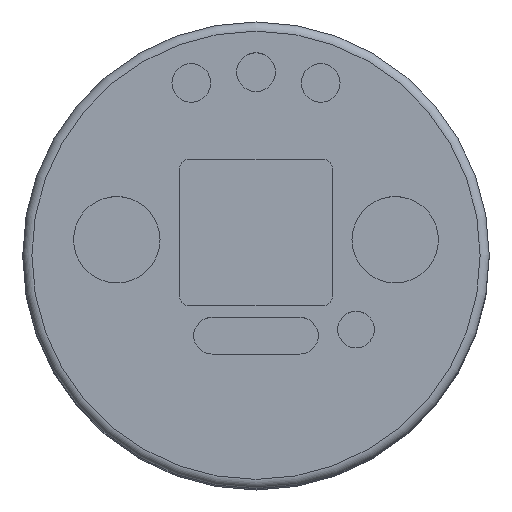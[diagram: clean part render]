
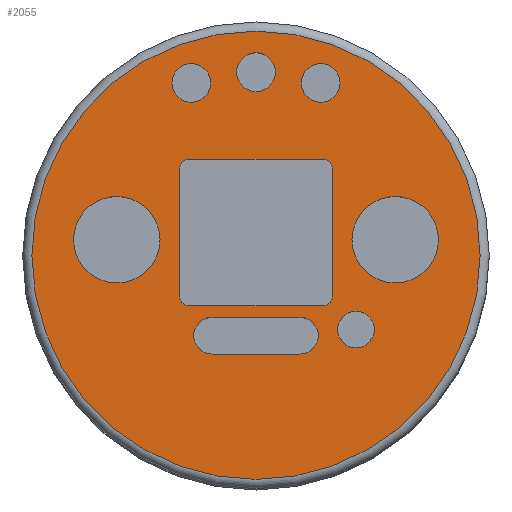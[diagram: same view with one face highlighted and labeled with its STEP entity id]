
A CAD part, top view. The second image highlights one B-rep face of the part: STEP entity #2055.
In plain terms, the highlighted planar face has unit normal (0, 0, 1).
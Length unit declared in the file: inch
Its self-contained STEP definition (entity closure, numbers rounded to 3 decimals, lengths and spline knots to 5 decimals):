
#91=FACE_BOUND('',#353,.T.);
#92=FACE_BOUND('',#354,.T.);
#93=FACE_BOUND('',#355,.T.);
#94=FACE_BOUND('',#356,.T.);
#95=FACE_BOUND('',#357,.T.);
#96=FACE_BOUND('',#358,.T.);
#97=FACE_BOUND('',#359,.T.);
#98=FACE_BOUND('',#360,.T.);
#205=FACE_OUTER_BOUND('',#352,.T.);
#352=EDGE_LOOP('',(#1781));
#353=EDGE_LOOP('',(#1782));
#354=EDGE_LOOP('',(#1783));
#355=EDGE_LOOP('',(#1784));
#356=EDGE_LOOP('',(#1785,#1786,#1787,#1788));
#357=EDGE_LOOP('',(#1789));
#358=EDGE_LOOP('',(#1790));
#359=EDGE_LOOP('',(#1791,#1792,#1793,#1794,#1795,#1796,#1797,#1798));
#360=EDGE_LOOP('',(#1799));
#441=CIRCLE('',#2242,0.1475);
#443=CIRCLE('',#2246,0.1475);
#446=CIRCLE('',#2251,0.03125);
#450=CIRCLE('',#2258,0.03125);
#451=CIRCLE('',#2260,0.03125);
#452=CIRCLE('',#2263,0.03125);
#458=CIRCLE('',#2273,0.76475);
#460=CIRCLE('',#2276,0.06603);
#461=CIRCLE('',#2277,0.0625);
#462=CIRCLE('',#2278,0.0625);
#463=CIRCLE('',#2279,0.0625);
#464=CIRCLE('',#2280,0.06603);
#465=CIRCLE('',#2281,0.06625);
#638=LINE('',#3433,#820);
#643=LINE('',#3447,#825);
#647=LINE('',#3477,#829);
#648=LINE('',#3480,#830);
#649=LINE('',#3485,#831);
#650=LINE('',#3486,#832);
#820=VECTOR('',#2808,0.3937);
#825=VECTOR('',#2823,0.3937);
#829=VECTOR('',#2859,0.3937);
#830=VECTOR('',#2862,0.3937);
#831=VECTOR('',#2867,0.3937);
#832=VECTOR('',#2868,0.3937);
#983=VERTEX_POINT('',#3395);
#985=VERTEX_POINT('',#3402);
#989=VERTEX_POINT('',#3412);
#990=VERTEX_POINT('',#3414);
#997=VERTEX_POINT('',#3432);
#998=VERTEX_POINT('',#3436);
#999=VERTEX_POINT('',#3440);
#1000=VERTEX_POINT('',#3442);
#1001=VERTEX_POINT('',#3446);
#1002=VERTEX_POINT('',#3450);
#1007=VERTEX_POINT('',#3467);
#1008=VERTEX_POINT('',#3471);
#1009=VERTEX_POINT('',#3473);
#1010=VERTEX_POINT('',#3474);
#1011=VERTEX_POINT('',#3476);
#1012=VERTEX_POINT('',#3478);
#1013=VERTEX_POINT('',#3481);
#1014=VERTEX_POINT('',#3483);
#1015=VERTEX_POINT('',#3487);
#1238=EDGE_CURVE('',#983,#983,#441,.T.);
#1241=EDGE_CURVE('',#985,#985,#443,.T.);
#1246=EDGE_CURVE('',#989,#990,#446,.T.);
#1255=EDGE_CURVE('',#997,#990,#638,.T.);
#1257=EDGE_CURVE('',#997,#998,#450,.T.);
#1260=EDGE_CURVE('',#999,#1000,#451,.T.);
#1262=EDGE_CURVE('',#1001,#1000,#643,.T.);
#1264=EDGE_CURVE('',#1001,#1002,#452,.T.);
#1272=EDGE_CURVE('',#1007,#1007,#458,.T.);
#1274=EDGE_CURVE('',#1008,#1008,#460,.T.);
#1275=EDGE_CURVE('',#1009,#1010,#461,.T.);
#1276=EDGE_CURVE('',#1010,#1011,#647,.T.);
#1277=EDGE_CURVE('',#1011,#1012,#462,.T.);
#1278=EDGE_CURVE('',#1012,#1009,#648,.T.);
#1279=EDGE_CURVE('',#1013,#1013,#463,.T.);
#1280=EDGE_CURVE('',#1014,#1014,#464,.T.);
#1281=EDGE_CURVE('',#999,#998,#649,.T.);
#1282=EDGE_CURVE('',#989,#1002,#650,.T.);
#1283=EDGE_CURVE('',#1015,#1015,#465,.T.);
#1781=ORIENTED_EDGE('',*,*,#1272,.F.);
#1782=ORIENTED_EDGE('',*,*,#1238,.T.);
#1783=ORIENTED_EDGE('',*,*,#1241,.T.);
#1784=ORIENTED_EDGE('',*,*,#1274,.T.);
#1785=ORIENTED_EDGE('',*,*,#1275,.T.);
#1786=ORIENTED_EDGE('',*,*,#1276,.T.);
#1787=ORIENTED_EDGE('',*,*,#1277,.T.);
#1788=ORIENTED_EDGE('',*,*,#1278,.T.);
#1789=ORIENTED_EDGE('',*,*,#1279,.T.);
#1790=ORIENTED_EDGE('',*,*,#1280,.T.);
#1791=ORIENTED_EDGE('',*,*,#1281,.T.);
#1792=ORIENTED_EDGE('',*,*,#1257,.F.);
#1793=ORIENTED_EDGE('',*,*,#1255,.T.);
#1794=ORIENTED_EDGE('',*,*,#1246,.F.);
#1795=ORIENTED_EDGE('',*,*,#1282,.T.);
#1796=ORIENTED_EDGE('',*,*,#1264,.F.);
#1797=ORIENTED_EDGE('',*,*,#1262,.T.);
#1798=ORIENTED_EDGE('',*,*,#1260,.F.);
#1799=ORIENTED_EDGE('',*,*,#1283,.T.);
#1938=PLANE('',#2275);
#2055=ADVANCED_FACE('',(#205,#91,#92,#93,#94,#95,#96,#97,#98),#1938,.T.);
#2242=AXIS2_PLACEMENT_3D('',#3396,#2770,#2771);
#2246=AXIS2_PLACEMENT_3D('',#3403,#2779,#2780);
#2251=AXIS2_PLACEMENT_3D('',#3415,#2791,#2792);
#2258=AXIS2_PLACEMENT_3D('',#3437,#2812,#2813);
#2260=AXIS2_PLACEMENT_3D('',#3443,#2818,#2819);
#2263=AXIS2_PLACEMENT_3D('',#3451,#2827,#2828);
#2273=AXIS2_PLACEMENT_3D('',#3468,#2849,#2850);
#2275=AXIS2_PLACEMENT_3D('',#3470,#2853,#2854);
#2276=AXIS2_PLACEMENT_3D('',#3472,#2855,#2856);
#2277=AXIS2_PLACEMENT_3D('',#3475,#2857,#2858);
#2278=AXIS2_PLACEMENT_3D('',#3479,#2860,#2861);
#2279=AXIS2_PLACEMENT_3D('',#3482,#2863,#2864);
#2280=AXIS2_PLACEMENT_3D('',#3484,#2865,#2866);
#2281=AXIS2_PLACEMENT_3D('',#3488,#2869,#2870);
#2770=DIRECTION('center_axis',(0.,0.,-1.));
#2771=DIRECTION('ref_axis',(-1.,0.,0.));
#2779=DIRECTION('center_axis',(0.,0.,-1.));
#2780=DIRECTION('ref_axis',(-1.,0.,0.));
#2791=DIRECTION('center_axis',(0.,0.,1.));
#2792=DIRECTION('ref_axis',(-0.707,-0.707,0.));
#2808=DIRECTION('',(-1.,0.,0.));
#2812=DIRECTION('center_axis',(0.,0.,1.));
#2813=DIRECTION('ref_axis',(0.707,-0.707,0.));
#2818=DIRECTION('center_axis',(0.,0.,1.));
#2819=DIRECTION('ref_axis',(0.707,0.707,0.));
#2823=DIRECTION('',(1.,0.,0.));
#2827=DIRECTION('center_axis',(0.,0.,1.));
#2828=DIRECTION('ref_axis',(-0.707,0.707,0.));
#2849=DIRECTION('center_axis',(0.,0.,-1.));
#2850=DIRECTION('ref_axis',(1.,0.,0.));
#2853=DIRECTION('center_axis',(0.,0.,1.));
#2854=DIRECTION('ref_axis',(1.,0.,0.));
#2855=DIRECTION('center_axis',(0.,0.,-1.));
#2856=DIRECTION('ref_axis',(1.,0.,0.));
#2857=DIRECTION('center_axis',(0.,0.,-1.));
#2858=DIRECTION('ref_axis',(0.,1.,0.));
#2859=DIRECTION('',(1.,0.,0.));
#2860=DIRECTION('center_axis',(0.,0.,-1.));
#2861=DIRECTION('ref_axis',(0.,-1.,0.));
#2862=DIRECTION('',(-1.,0.,0.));
#2863=DIRECTION('center_axis',(0.,0.,-1.));
#2864=DIRECTION('ref_axis',(1.,0.,0.));
#2865=DIRECTION('center_axis',(0.,0.,-1.));
#2866=DIRECTION('ref_axis',(1.,0.,0.));
#2867=DIRECTION('',(0.,-1.,0.));
#2868=DIRECTION('',(0.,1.,0.));
#2869=DIRECTION('center_axis',(0.,0.,-1.));
#2870=DIRECTION('ref_axis',(1.,0.,0.));
#3395=CARTESIAN_POINT('',(-0.3275,0.053,0.65));
#3396=CARTESIAN_POINT('Origin',(-0.475,0.053,0.65));
#3402=CARTESIAN_POINT('',(0.6225,0.053,0.65));
#3403=CARTESIAN_POINT('Origin',(0.475,0.053,0.65));
#3412=CARTESIAN_POINT('',(-0.26,-0.14075,0.65));
#3414=CARTESIAN_POINT('',(-0.22875,-0.172,0.65));
#3415=CARTESIAN_POINT('Origin',(-0.22875,-0.14075,0.65));
#3432=CARTESIAN_POINT('',(0.22875,-0.172,0.65));
#3433=CARTESIAN_POINT('',(-0.26,-0.172,0.65));
#3436=CARTESIAN_POINT('',(0.26,-0.14075,0.65));
#3437=CARTESIAN_POINT('Origin',(0.22875,-0.14075,0.65));
#3440=CARTESIAN_POINT('',(0.26,0.29675,0.65));
#3442=CARTESIAN_POINT('',(0.22875,0.328,0.65));
#3443=CARTESIAN_POINT('Origin',(0.22875,0.29675,0.65));
#3446=CARTESIAN_POINT('',(-0.22875,0.328,0.65));
#3447=CARTESIAN_POINT('',(0.26,0.328,0.65));
#3450=CARTESIAN_POINT('',(-0.26,0.29675,0.65));
#3451=CARTESIAN_POINT('Origin',(-0.22875,0.29675,0.65));
#3467=CARTESIAN_POINT('',(-0.76475,0.,0.65));
#3468=CARTESIAN_POINT('Origin',(0.,0.,0.65));
#3470=CARTESIAN_POINT('Origin',(0.,0.,0.65));
#3471=CARTESIAN_POINT('',(0.15479,0.58817,0.65));
#3472=CARTESIAN_POINT('Origin',(0.22082,0.58817,0.65));
#3473=CARTESIAN_POINT('',(-0.15,-0.337,0.65));
#3474=CARTESIAN_POINT('',(-0.15,-0.212,0.65));
#3475=CARTESIAN_POINT('Origin',(-0.15,-0.2745,0.65));
#3476=CARTESIAN_POINT('',(0.15,-0.212,0.65));
#3477=CARTESIAN_POINT('',(0.15,-0.212,0.65));
#3478=CARTESIAN_POINT('',(0.15,-0.337,0.65));
#3479=CARTESIAN_POINT('Origin',(0.15,-0.2745,0.65));
#3480=CARTESIAN_POINT('',(-0.15,-0.337,0.65));
#3481=CARTESIAN_POINT('',(0.27882,-0.25332,0.65));
#3482=CARTESIAN_POINT('Origin',(0.34132,-0.25332,0.65));
#3483=CARTESIAN_POINT('',(-0.28685,0.58817,0.65));
#3484=CARTESIAN_POINT('Origin',(-0.22082,0.58817,0.65));
#3485=CARTESIAN_POINT('',(0.26,-0.172,0.65));
#3486=CARTESIAN_POINT('',(-0.26,0.328,0.65));
#3487=CARTESIAN_POINT('',(-0.06625,0.62475,0.65));
#3488=CARTESIAN_POINT('Origin',(0.,0.62475,0.65));
